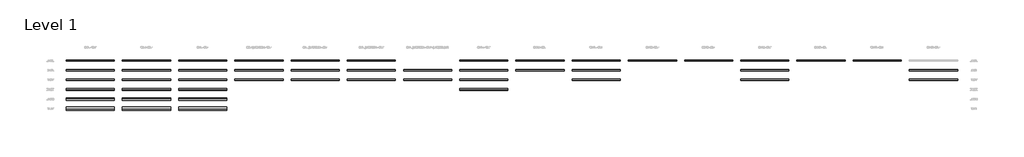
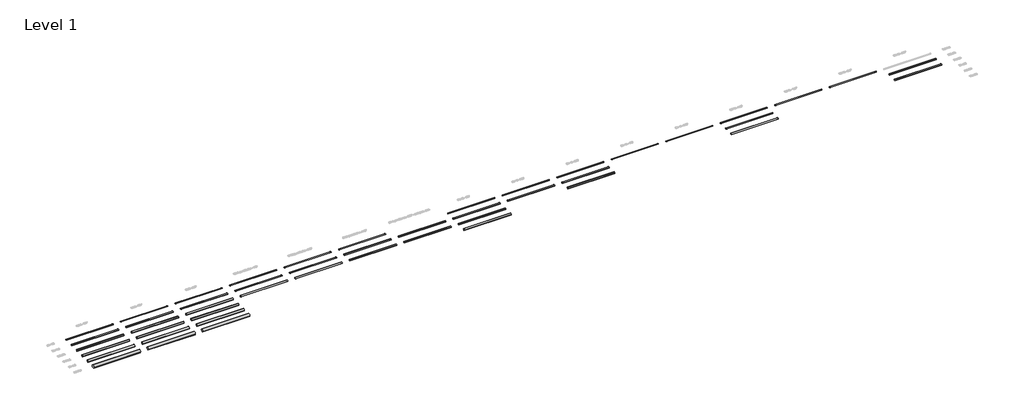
# One storey, part 1 of 9: 47 pipe segments.
"""IFC4 building model written with IfcOpenShell, lengths in millimetres."""

from ifc_helpers import new_model, si_unit, point, frame, frame_2d, origin, place, context, project, spatial, circle_curve, trimmed, segment, composite_curve, outline, extrude, element, save

model = new_model("IFC4")

# Units and contexts
model_context = context("Model", 3, world=origin())
ifc_project = project(units=[si_unit("LENGTHUNIT", "METRE", prefix="MILLI")], contexts=[model_context])

# Site, building, storey
site = spatial("IfcSite", under=ifc_project)
building = spatial("IfcBuilding", under=site)
storey = spatial("IfcBuildingStorey", under=building, Name="Level 1", Elevation=0.0)

# Pipe segments
placement = place(None, origin())
element("IfcPipeSegment", 1, ObjectType="Pipelife Pragma OD® rura perforowana o podwójnej ściance SN 8 - perforacja 120°", at=placement, inside=storey, context=model_context, shape_type="SweptSolid", body=[
    extrude(outline(composite_curve([segment(trimmed(circle_curve(frame_2d((-613.949573, 0.0)), 80.0), [point((-693.949573, 0.0))], [point((-613.949573, 80.0))], False, "CARTESIAN"), True, "CONTINUOUS"), segment(trimmed(circle_curve(frame_2d((-613.949573, 0.0)), 80.0), [point((-613.949573, 80.0))], [point((-533.949573, 0.0))], False, "CARTESIAN"), True, "CONTINUOUS"), segment(trimmed(circle_curve(frame_2d((-613.949573, 0.0)), 80.0), [point((-533.949573, 0.0))], [point((-613.949573, -80.0))], False, "CARTESIAN"), True, "CONTINUOUS"), segment(trimmed(circle_curve(frame_2d((-613.949573, 0.0)), 80.0), [point((-613.949573, -80.0))], [point((-693.949573, 0.0))], False, "CARTESIAN"), True, "CONTINUOUS")], self_intersect=False)), frame((-17032.6671252, 0.0, 0.0), z_axis=(1.0, 0.0, 0.0), x_axis=(0.0, 1.0, 0.0)), (0.0, 0.0, 1.0), 6000.0),
])
element("IfcPipeSegment", 2, ObjectType="Pipelife Pragma OD® rura perforowana o podwójnej ściance SN 8 - perforacja 120°", at=placement, inside=storey, context=model_context, shape_type="SweptSolid", body=[
    extrude(outline(composite_curve([segment(trimmed(circle_curve(frame_2d((-1813.949573, 0.0)), 100.0), [point((-1913.949573, 0.0))], [point((-1813.949573, 100.0))], False, "CARTESIAN"), True, "CONTINUOUS"), segment(trimmed(circle_curve(frame_2d((-1813.949573, 0.0)), 100.0), [point((-1813.949573, 100.0))], [point((-1713.949573, 0.0))], False, "CARTESIAN"), True, "CONTINUOUS"), segment(trimmed(circle_curve(frame_2d((-1813.949573, 0.0)), 100.0), [point((-1713.949573, 0.0))], [point((-1813.949573, -100.0))], False, "CARTESIAN"), True, "CONTINUOUS"), segment(trimmed(circle_curve(frame_2d((-1813.949573, 0.0)), 100.0), [point((-1813.949573, -100.0))], [point((-1913.949573, 0.0))], False, "CARTESIAN"), True, "CONTINUOUS")], self_intersect=False)), frame((-17032.6671252, 0.0, 0.0), z_axis=(1.0, 0.0, 0.0), x_axis=(0.0, 1.0, 0.0)), (0.0, 0.0, 1.0), 6000.0),
])
element("IfcPipeSegment", 3, ObjectType="Pipelife Pragma OD® rura perforowana o podwójnej ściance SN 8 - perforacja 120°", at=placement, inside=storey, context=model_context, shape_type="SweptSolid", body=[
    extrude(outline(composite_curve([segment(trimmed(circle_curve(frame_2d((-3013.949573, 0.0)), 125.0), [point((-3138.949573, 0.0))], [point((-3013.949573, 125.0))], False, "CARTESIAN"), True, "CONTINUOUS"), segment(trimmed(circle_curve(frame_2d((-3013.949573, 0.0)), 125.0), [point((-3013.949573, 125.0))], [point((-2888.949573, 0.0))], False, "CARTESIAN"), True, "CONTINUOUS"), segment(trimmed(circle_curve(frame_2d((-3013.949573, 0.0)), 125.0), [point((-2888.949573, 0.0))], [point((-3013.949573, -125.0))], False, "CARTESIAN"), True, "CONTINUOUS"), segment(trimmed(circle_curve(frame_2d((-3013.949573, 0.0)), 125.0), [point((-3013.949573, -125.0))], [point((-3138.949573, 0.0))], False, "CARTESIAN"), True, "CONTINUOUS")], self_intersect=False)), frame((-17032.6671252, 0.0, 0.0), z_axis=(1.0, 0.0, 0.0), x_axis=(0.0, 1.0, 0.0)), (0.0, 0.0, 1.0), 6000.0),
])
element("IfcPipeSegment", 4, ObjectType="Pipelife Pragma OD® rura perforowana o podwójnej ściance SN 8 - perforacja 120°", at=placement, inside=storey, context=model_context, shape_type="SweptSolid", body=[
    extrude(outline(composite_curve([segment(trimmed(circle_curve(frame_2d((-4213.949573, 0.0)), 157.5), [point((-4371.449573, 0.0))], [point((-4213.949573, 157.5))], False, "CARTESIAN"), True, "CONTINUOUS"), segment(trimmed(circle_curve(frame_2d((-4213.949573, 0.0)), 157.5), [point((-4213.949573, 157.5))], [point((-4056.449573, 0.0))], False, "CARTESIAN"), True, "CONTINUOUS"), segment(trimmed(circle_curve(frame_2d((-4213.949573, 0.0)), 157.5), [point((-4056.449573, 0.0))], [point((-4213.949573, -157.5))], False, "CARTESIAN"), True, "CONTINUOUS"), segment(trimmed(circle_curve(frame_2d((-4213.949573, 0.0)), 157.5), [point((-4213.949573, -157.5))], [point((-4371.449573, 0.0))], False, "CARTESIAN"), True, "CONTINUOUS")], self_intersect=False)), frame((-17032.6671252, 0.0, 0.0), z_axis=(1.0, 0.0, 0.0), x_axis=(0.0, 1.0, 0.0)), (0.0, 0.0, 1.0), 6000.0),
])
element("IfcPipeSegment", 5, ObjectType="Pipelife Pragma OD® rura perforowana o podwójnej ściance SN 8 - perforacja 120°", at=placement, inside=storey, context=model_context, shape_type="SweptSolid", body=[
    extrude(outline(composite_curve([segment(trimmed(circle_curve(frame_2d((-5413.949573, 0.0)), 200.0), [point((-5613.949573, 0.0))], [point((-5413.949573, 200.0))], False, "CARTESIAN"), True, "CONTINUOUS"), segment(trimmed(circle_curve(frame_2d((-5413.949573, 0.0)), 200.0), [point((-5413.949573, 200.0))], [point((-5213.949573, 0.0))], False, "CARTESIAN"), True, "CONTINUOUS"), segment(trimmed(circle_curve(frame_2d((-5413.949573, 0.0)), 200.0), [point((-5213.949573, 0.0))], [point((-5413.949573, -200.0))], False, "CARTESIAN"), True, "CONTINUOUS"), segment(trimmed(circle_curve(frame_2d((-5413.949573, 0.0)), 200.0), [point((-5413.949573, -200.0))], [point((-5613.949573, 0.0))], False, "CARTESIAN"), True, "CONTINUOUS")], self_intersect=False)), frame((-17032.6671252, 0.0, 0.0), z_axis=(1.0, 0.0, 0.0), x_axis=(0.0, 1.0, 0.0)), (0.0, 0.0, 1.0), 6000.0),
])
element("IfcPipeSegment", 6, ObjectType="Pipelife Pragma OD® rura perforowana o podwójnej ściance SN 8 - perforacja 220°", at=placement, inside=storey, context=model_context, shape_type="SweptSolid", body=[
    extrude(outline(composite_curve([segment(trimmed(circle_curve(frame_2d((-613.949573, 0.0)), 80.0), [point((-693.949573, 0.0))], [point((-613.949573, 80.0))], False, "CARTESIAN"), True, "CONTINUOUS"), segment(trimmed(circle_curve(frame_2d((-613.949573, 0.0)), 80.0), [point((-613.949573, 80.0))], [point((-533.949573, 0.0))], False, "CARTESIAN"), True, "CONTINUOUS"), segment(trimmed(circle_curve(frame_2d((-613.949573, 0.0)), 80.0), [point((-533.949573, 0.0))], [point((-613.949573, -80.0))], False, "CARTESIAN"), True, "CONTINUOUS"), segment(trimmed(circle_curve(frame_2d((-613.949573, 0.0)), 80.0), [point((-613.949573, -80.0))], [point((-693.949573, 0.0))], False, "CARTESIAN"), True, "CONTINUOUS")], self_intersect=False)), frame((-10032.6671252, 0.0, 0.0), z_axis=(1.0, 0.0, 0.0), x_axis=(0.0, 1.0, 0.0)), (0.0, 0.0, 1.0), 6000.0),
])
element("IfcPipeSegment", 7, ObjectType="Pipelife Pragma OD® rura perforowana o podwójnej ściance SN 8 - perforacja 220°", at=placement, inside=storey, context=model_context, shape_type="SweptSolid", body=[
    extrude(outline(composite_curve([segment(trimmed(circle_curve(frame_2d((-1813.949573, 0.0)), 100.0), [point((-1913.949573, 0.0))], [point((-1813.949573, 100.0))], False, "CARTESIAN"), True, "CONTINUOUS"), segment(trimmed(circle_curve(frame_2d((-1813.949573, 0.0)), 100.0), [point((-1813.949573, 100.0))], [point((-1713.949573, 0.0))], False, "CARTESIAN"), True, "CONTINUOUS"), segment(trimmed(circle_curve(frame_2d((-1813.949573, 0.0)), 100.0), [point((-1713.949573, 0.0))], [point((-1813.949573, -100.0))], False, "CARTESIAN"), True, "CONTINUOUS"), segment(trimmed(circle_curve(frame_2d((-1813.949573, 0.0)), 100.0), [point((-1813.949573, -100.0))], [point((-1913.949573, 0.0))], False, "CARTESIAN"), True, "CONTINUOUS")], self_intersect=False)), frame((-10032.6671252, 0.0, 0.0), z_axis=(1.0, 0.0, 0.0), x_axis=(0.0, 1.0, 0.0)), (0.0, 0.0, 1.0), 6000.0),
])
element("IfcPipeSegment", 8, ObjectType="Pipelife Pragma OD® rura perforowana o podwójnej ściance SN 8 - perforacja 220°", at=placement, inside=storey, context=model_context, shape_type="SweptSolid", body=[
    extrude(outline(composite_curve([segment(trimmed(circle_curve(frame_2d((-3013.949573, 0.0)), 125.0), [point((-3138.949573, 0.0))], [point((-3013.949573, 125.0))], False, "CARTESIAN"), True, "CONTINUOUS"), segment(trimmed(circle_curve(frame_2d((-3013.949573, 0.0)), 125.0), [point((-3013.949573, 125.0))], [point((-2888.949573, 0.0))], False, "CARTESIAN"), True, "CONTINUOUS"), segment(trimmed(circle_curve(frame_2d((-3013.949573, 0.0)), 125.0), [point((-2888.949573, 0.0))], [point((-3013.949573, -125.0))], False, "CARTESIAN"), True, "CONTINUOUS"), segment(trimmed(circle_curve(frame_2d((-3013.949573, 0.0)), 125.0), [point((-3013.949573, -125.0))], [point((-3138.949573, 0.0))], False, "CARTESIAN"), True, "CONTINUOUS")], self_intersect=False)), frame((-10032.6671252, 0.0, 0.0), z_axis=(1.0, 0.0, 0.0), x_axis=(0.0, 1.0, 0.0)), (0.0, 0.0, 1.0), 6000.0),
])
element("IfcPipeSegment", 9, ObjectType="Pipelife Pragma OD® rura perforowana o podwójnej ściance SN 8 - perforacja 220°", at=placement, inside=storey, context=model_context, shape_type="SweptSolid", body=[
    extrude(outline(composite_curve([segment(trimmed(circle_curve(frame_2d((-4213.949573, 0.0)), 157.5), [point((-4371.449573, 0.0))], [point((-4213.949573, 157.5))], False, "CARTESIAN"), True, "CONTINUOUS"), segment(trimmed(circle_curve(frame_2d((-4213.949573, 0.0)), 157.5), [point((-4213.949573, 157.5))], [point((-4056.449573, 0.0))], False, "CARTESIAN"), True, "CONTINUOUS"), segment(trimmed(circle_curve(frame_2d((-4213.949573, 0.0)), 157.5), [point((-4056.449573, 0.0))], [point((-4213.949573, -157.5))], False, "CARTESIAN"), True, "CONTINUOUS"), segment(trimmed(circle_curve(frame_2d((-4213.949573, 0.0)), 157.5), [point((-4213.949573, -157.5))], [point((-4371.449573, 0.0))], False, "CARTESIAN"), True, "CONTINUOUS")], self_intersect=False)), frame((-10032.6671252, 0.0, 0.0), z_axis=(1.0, 0.0, 0.0), x_axis=(0.0, 1.0, 0.0)), (0.0, 0.0, 1.0), 6000.0),
])
element("IfcPipeSegment", 10, ObjectType="Pipelife Pragma OD® rura perforowana o podwójnej ściance SN 8 - perforacja 220°", at=placement, inside=storey, context=model_context, shape_type="SweptSolid", body=[
    extrude(outline(composite_curve([segment(trimmed(circle_curve(frame_2d((-5413.949573, 0.0)), 200.0), [point((-5613.949573, 0.0))], [point((-5413.949573, 200.0))], False, "CARTESIAN"), True, "CONTINUOUS"), segment(trimmed(circle_curve(frame_2d((-5413.949573, 0.0)), 200.0), [point((-5413.949573, 200.0))], [point((-5213.949573, 0.0))], False, "CARTESIAN"), True, "CONTINUOUS"), segment(trimmed(circle_curve(frame_2d((-5413.949573, 0.0)), 200.0), [point((-5213.949573, 0.0))], [point((-5413.949573, -200.0))], False, "CARTESIAN"), True, "CONTINUOUS"), segment(trimmed(circle_curve(frame_2d((-5413.949573, 0.0)), 200.0), [point((-5413.949573, -200.0))], [point((-5613.949573, 0.0))], False, "CARTESIAN"), True, "CONTINUOUS")], self_intersect=False)), frame((-10032.6671252, 0.0, 0.0), z_axis=(1.0, 0.0, 0.0), x_axis=(0.0, 1.0, 0.0)), (0.0, 0.0, 1.0), 6000.0),
])
element("IfcPipeSegment", 11, ObjectType="Pipelife Pragma OD® rura perforowana o podwójnej ściance SN 8 - perforacja 360°", at=placement, inside=storey, context=model_context, shape_type="SweptSolid", body=[
    extrude(outline(composite_curve([segment(trimmed(circle_curve(frame_2d((-613.949573, 0.0)), 80.0), [point((-693.949573, 0.0))], [point((-613.949573, 80.0))], False, "CARTESIAN"), True, "CONTINUOUS"), segment(trimmed(circle_curve(frame_2d((-613.949573, 0.0)), 80.0), [point((-613.949573, 80.0))], [point((-533.949573, 0.0))], False, "CARTESIAN"), True, "CONTINUOUS"), segment(trimmed(circle_curve(frame_2d((-613.949573, 0.0)), 80.0), [point((-533.949573, 0.0))], [point((-613.949573, -80.0))], False, "CARTESIAN"), True, "CONTINUOUS"), segment(trimmed(circle_curve(frame_2d((-613.949573, 0.0)), 80.0), [point((-613.949573, -80.0))], [point((-693.949573, 0.0))], False, "CARTESIAN"), True, "CONTINUOUS")], self_intersect=False)), frame((-3032.6671252, 0.0, 0.0), z_axis=(1.0, 0.0, 0.0), x_axis=(0.0, 1.0, 0.0)), (0.0, 0.0, 1.0), 6000.0),
])
element("IfcPipeSegment", 12, ObjectType="Pipelife Pragma OD® rura perforowana o podwójnej ściance SN 8 - perforacja 360°", at=placement, inside=storey, context=model_context, shape_type="SweptSolid", body=[
    extrude(outline(composite_curve([segment(trimmed(circle_curve(frame_2d((-1813.949573, 0.0)), 100.0), [point((-1913.949573, 0.0))], [point((-1813.949573, 100.0))], False, "CARTESIAN"), True, "CONTINUOUS"), segment(trimmed(circle_curve(frame_2d((-1813.949573, 0.0)), 100.0), [point((-1813.949573, 100.0))], [point((-1713.949573, 0.0))], False, "CARTESIAN"), True, "CONTINUOUS"), segment(trimmed(circle_curve(frame_2d((-1813.949573, 0.0)), 100.0), [point((-1713.949573, 0.0))], [point((-1813.949573, -100.0))], False, "CARTESIAN"), True, "CONTINUOUS"), segment(trimmed(circle_curve(frame_2d((-1813.949573, 0.0)), 100.0), [point((-1813.949573, -100.0))], [point((-1913.949573, 0.0))], False, "CARTESIAN"), True, "CONTINUOUS")], self_intersect=False)), frame((-3032.6671252, 0.0, 0.0), z_axis=(1.0, 0.0, 0.0), x_axis=(0.0, 1.0, 0.0)), (0.0, 0.0, 1.0), 6000.0),
])
element("IfcPipeSegment", 13, ObjectType="Pipelife Pragma OD® rura perforowana o podwójnej ściance SN 8 - perforacja 360°", at=placement, inside=storey, context=model_context, shape_type="SweptSolid", body=[
    extrude(outline(composite_curve([segment(trimmed(circle_curve(frame_2d((-3013.949573, 0.0)), 125.0), [point((-3138.949573, 0.0))], [point((-3013.949573, 125.0))], False, "CARTESIAN"), True, "CONTINUOUS"), segment(trimmed(circle_curve(frame_2d((-3013.949573, 0.0)), 125.0), [point((-3013.949573, 125.0))], [point((-2888.949573, 0.0))], False, "CARTESIAN"), True, "CONTINUOUS"), segment(trimmed(circle_curve(frame_2d((-3013.949573, 0.0)), 125.0), [point((-2888.949573, 0.0))], [point((-3013.949573, -125.0))], False, "CARTESIAN"), True, "CONTINUOUS"), segment(trimmed(circle_curve(frame_2d((-3013.949573, 0.0)), 125.0), [point((-3013.949573, -125.0))], [point((-3138.949573, 0.0))], False, "CARTESIAN"), True, "CONTINUOUS")], self_intersect=False)), frame((-3032.6671252, 0.0, 0.0), z_axis=(1.0, 0.0, 0.0), x_axis=(0.0, 1.0, 0.0)), (0.0, 0.0, 1.0), 6000.0),
])
element("IfcPipeSegment", 14, ObjectType="Pipelife Pragma OD® rura perforowana o podwójnej ściance SN 8 - perforacja 360°", at=placement, inside=storey, context=model_context, shape_type="SweptSolid", body=[
    extrude(outline(composite_curve([segment(trimmed(circle_curve(frame_2d((-4213.949573, 0.0)), 157.5), [point((-4371.449573, 0.0))], [point((-4213.949573, 157.5))], False, "CARTESIAN"), True, "CONTINUOUS"), segment(trimmed(circle_curve(frame_2d((-4213.949573, 0.0)), 157.5), [point((-4213.949573, 157.5))], [point((-4056.449573, 0.0))], False, "CARTESIAN"), True, "CONTINUOUS"), segment(trimmed(circle_curve(frame_2d((-4213.949573, 0.0)), 157.5), [point((-4056.449573, 0.0))], [point((-4213.949573, -157.5))], False, "CARTESIAN"), True, "CONTINUOUS"), segment(trimmed(circle_curve(frame_2d((-4213.949573, 0.0)), 157.5), [point((-4213.949573, -157.5))], [point((-4371.449573, 0.0))], False, "CARTESIAN"), True, "CONTINUOUS")], self_intersect=False)), frame((-3032.6671252, 0.0, 0.0), z_axis=(1.0, 0.0, 0.0), x_axis=(0.0, 1.0, 0.0)), (0.0, 0.0, 1.0), 6000.0),
])
element("IfcPipeSegment", 15, ObjectType="Pipelife Pragma OD® rura perforowana o podwójnej ściance SN 8 - perforacja 360°", at=placement, inside=storey, context=model_context, shape_type="SweptSolid", body=[
    extrude(outline(composite_curve([segment(trimmed(circle_curve(frame_2d((-5413.949573, 0.0)), 200.0), [point((-5613.949573, 0.0))], [point((-5413.949573, 200.0))], False, "CARTESIAN"), True, "CONTINUOUS"), segment(trimmed(circle_curve(frame_2d((-5413.949573, 0.0)), 200.0), [point((-5413.949573, 200.0))], [point((-5213.949573, 0.0))], False, "CARTESIAN"), True, "CONTINUOUS"), segment(trimmed(circle_curve(frame_2d((-5413.949573, 0.0)), 200.0), [point((-5213.949573, 0.0))], [point((-5413.949573, -200.0))], False, "CARTESIAN"), True, "CONTINUOUS"), segment(trimmed(circle_curve(frame_2d((-5413.949573, 0.0)), 200.0), [point((-5413.949573, -200.0))], [point((-5613.949573, 0.0))], False, "CARTESIAN"), True, "CONTINUOUS")], self_intersect=False)), frame((-3032.6671252, 0.0, 0.0), z_axis=(1.0, 0.0, 0.0), x_axis=(0.0, 1.0, 0.0)), (0.0, 0.0, 1.0), 6000.0),
])
element("IfcPipeSegment", 16, ObjectType="Pipelife Pragma OD® rura perforowana o podwójnej ściance (czarna) SN 8 - perforacja 120°", at=placement, inside=storey, context=model_context, shape_type="SweptSolid", body=[
    extrude(outline(composite_curve([segment(trimmed(circle_curve(frame_2d((586.050427, 0.0)), 55.0), [point((531.050427, 0.0))], [point((586.050427, 55.0))], False, "CARTESIAN"), True, "CONTINUOUS"), segment(trimmed(circle_curve(frame_2d((586.050427, 0.0)), 55.0), [point((586.050427, 55.0))], [point((641.050427, 0.0))], False, "CARTESIAN"), True, "CONTINUOUS"), segment(trimmed(circle_curve(frame_2d((586.050427, 0.0)), 55.0), [point((641.050427, 0.0))], [point((586.050427, -55.0))], False, "CARTESIAN"), True, "CONTINUOUS"), segment(trimmed(circle_curve(frame_2d((586.050427, 0.0)), 55.0), [point((586.050427, -55.0))], [point((531.050427, 0.0))], False, "CARTESIAN"), True, "CONTINUOUS")], self_intersect=False)), frame((-17032.6671252, 0.0, 0.0), z_axis=(1.0, 0.0, 0.0), x_axis=(0.0, 1.0, 0.0)), (0.0, 0.0, 1.0), 6000.0),
])
element("IfcPipeSegment", 17, ObjectType="Pipelife Pragma OD® rura perforowana o podwójnej ściance (czarna) SN 8 - perforacja 220°", at=placement, inside=storey, context=model_context, shape_type="SweptSolid", body=[
    extrude(outline(composite_curve([segment(trimmed(circle_curve(frame_2d((586.050427, 0.0)), 55.0), [point((531.050427, 0.0))], [point((586.050427, 55.0))], False, "CARTESIAN"), True, "CONTINUOUS"), segment(trimmed(circle_curve(frame_2d((586.050427, 0.0)), 55.0), [point((586.050427, 55.0))], [point((641.050427, 0.0))], False, "CARTESIAN"), True, "CONTINUOUS"), segment(trimmed(circle_curve(frame_2d((586.050427, 0.0)), 55.0), [point((641.050427, 0.0))], [point((586.050427, -55.0))], False, "CARTESIAN"), True, "CONTINUOUS"), segment(trimmed(circle_curve(frame_2d((586.050427, 0.0)), 55.0), [point((586.050427, -55.0))], [point((531.050427, 0.0))], False, "CARTESIAN"), True, "CONTINUOUS")], self_intersect=False)), frame((-10032.6671252, 0.0, 0.0), z_axis=(1.0, 0.0, 0.0), x_axis=(0.0, 1.0, 0.0)), (0.0, 0.0, 1.0), 6000.0),
])
element("IfcPipeSegment", 18, ObjectType="Pipelife Pragma OD® rura perforowana o podwójnej ściance (czarna) SN 8 - perforacja 360°", at=placement, inside=storey, context=model_context, shape_type="SweptSolid", body=[
    extrude(outline(composite_curve([segment(trimmed(circle_curve(frame_2d((586.050427, 0.0)), 55.0), [point((531.050427, 0.0))], [point((586.050427, 55.0))], False, "CARTESIAN"), True, "CONTINUOUS"), segment(trimmed(circle_curve(frame_2d((586.050427, 0.0)), 55.0), [point((586.050427, 55.0))], [point((641.050427, 0.0))], False, "CARTESIAN"), True, "CONTINUOUS"), segment(trimmed(circle_curve(frame_2d((586.050427, 0.0)), 55.0), [point((641.050427, 0.0))], [point((586.050427, -55.0))], False, "CARTESIAN"), True, "CONTINUOUS"), segment(trimmed(circle_curve(frame_2d((586.050427, 0.0)), 55.0), [point((586.050427, -55.0))], [point((531.050427, 0.0))], False, "CARTESIAN"), True, "CONTINUOUS")], self_intersect=False)), frame((-3032.6671252, 0.0, 0.0), z_axis=(1.0, 0.0, 0.0), x_axis=(0.0, 1.0, 0.0)), (0.0, 0.0, 1.0), 6000.0),
])
element("IfcPipeSegment", 19, ObjectType="Pipelife Pragma OD® rura perforowana o podwójnej ściance (czarna) SN 8 w geowłókninie - perforacja 120°", at=placement, inside=storey, context=model_context, shape_type="SweptSolid", body=[
    extrude(outline(composite_curve([segment(trimmed(circle_curve(frame_2d((586.050427, 0.0)), 55.0), [point((531.050427, 0.0))], [point((586.050427, 55.0))], False, "CARTESIAN"), True, "CONTINUOUS"), segment(trimmed(circle_curve(frame_2d((586.050427, 0.0)), 55.0), [point((586.050427, 55.0))], [point((641.050427, 0.0))], False, "CARTESIAN"), True, "CONTINUOUS"), segment(trimmed(circle_curve(frame_2d((586.050427, 0.0)), 55.0), [point((641.050427, 0.0))], [point((586.050427, -55.0))], False, "CARTESIAN"), True, "CONTINUOUS"), segment(trimmed(circle_curve(frame_2d((586.050427, 0.0)), 55.0), [point((586.050427, -55.0))], [point((531.050427, 0.0))], False, "CARTESIAN"), True, "CONTINUOUS")], self_intersect=False)), frame((3967.3328748, 0.0, 0.0), z_axis=(1.0, 0.0, 0.0), x_axis=(0.0, 1.0, 0.0)), (0.0, 0.0, 1.0), 6000.0),
])
element("IfcPipeSegment", 20, ObjectType="Pipelife Pragma OD® rura perforowana o podwójnej ściance (czarna) SN 8 w geowłókninie - perforacja 220°", at=placement, inside=storey, context=model_context, shape_type="SweptSolid", body=[
    extrude(outline(composite_curve([segment(trimmed(circle_curve(frame_2d((586.050427, 0.0)), 55.0), [point((531.050427, 0.0))], [point((586.050427, 55.0))], False, "CARTESIAN"), True, "CONTINUOUS"), segment(trimmed(circle_curve(frame_2d((586.050427, 0.0)), 55.0), [point((586.050427, 55.0))], [point((641.050427, 0.0))], False, "CARTESIAN"), True, "CONTINUOUS"), segment(trimmed(circle_curve(frame_2d((586.050427, 0.0)), 55.0), [point((641.050427, 0.0))], [point((586.050427, -55.0))], False, "CARTESIAN"), True, "CONTINUOUS"), segment(trimmed(circle_curve(frame_2d((586.050427, 0.0)), 55.0), [point((586.050427, -55.0))], [point((531.050427, 0.0))], False, "CARTESIAN"), True, "CONTINUOUS")], self_intersect=False)), frame((10967.3328748, 0.0, 0.0), z_axis=(1.0, 0.0, 0.0), x_axis=(0.0, 1.0, 0.0)), (0.0, 0.0, 1.0), 6000.0),
])
element("IfcPipeSegment", 21, ObjectType="Pipelife Pragma OD® rura perforowana o podwójnej ściance (czarna) SN 8 w geowłókninie - perforacja 360°", at=placement, inside=storey, context=model_context, shape_type="SweptSolid", body=[
    extrude(outline(composite_curve([segment(trimmed(circle_curve(frame_2d((586.050427, 0.0)), 55.0), [point((531.050427, 0.0))], [point((586.050427, 55.0))], False, "CARTESIAN"), True, "CONTINUOUS"), segment(trimmed(circle_curve(frame_2d((586.050427, 0.0)), 55.0), [point((586.050427, 55.0))], [point((641.050427, 0.0))], False, "CARTESIAN"), True, "CONTINUOUS"), segment(trimmed(circle_curve(frame_2d((586.050427, 0.0)), 55.0), [point((641.050427, 0.0))], [point((586.050427, -55.0))], False, "CARTESIAN"), True, "CONTINUOUS"), segment(trimmed(circle_curve(frame_2d((586.050427, 0.0)), 55.0), [point((586.050427, -55.0))], [point((531.050427, 0.0))], False, "CARTESIAN"), True, "CONTINUOUS")], self_intersect=False)), frame((17967.3328748, 0.0, 0.0), z_axis=(1.0, 0.0, 0.0), x_axis=(0.0, 1.0, 0.0)), (0.0, 0.0, 1.0), 6000.0),
])
element("IfcPipeSegment", 22, ObjectType="Pipelife Pragma OD® rura perforowana o podwójnej ściance SN 8 w geowłókninie - perforacja 120°", at=placement, inside=storey, context=model_context, shape_type="SweptSolid", body=[
    extrude(outline(composite_curve([segment(trimmed(circle_curve(frame_2d((-613.949573, 0.0)), 80.0), [point((-693.949573, 0.0))], [point((-613.949573, 80.0))], False, "CARTESIAN"), True, "CONTINUOUS"), segment(trimmed(circle_curve(frame_2d((-613.949573, 0.0)), 80.0), [point((-613.949573, 80.0))], [point((-533.949573, 0.0))], False, "CARTESIAN"), True, "CONTINUOUS"), segment(trimmed(circle_curve(frame_2d((-613.949573, 0.0)), 80.0), [point((-533.949573, 0.0))], [point((-613.949573, -80.0))], False, "CARTESIAN"), True, "CONTINUOUS"), segment(trimmed(circle_curve(frame_2d((-613.949573, 0.0)), 80.0), [point((-613.949573, -80.0))], [point((-693.949573, 0.0))], False, "CARTESIAN"), True, "CONTINUOUS")], self_intersect=False)), frame((3967.3328748, 0.0, 0.0), z_axis=(1.0, 0.0, 0.0), x_axis=(0.0, 1.0, 0.0)), (0.0, 0.0, 1.0), 6000.0),
])
element("IfcPipeSegment", 23, ObjectType="Pipelife Pragma OD® rura perforowana o podwójnej ściance SN 8 w geowłókninie - perforacja 120°", at=placement, inside=storey, context=model_context, shape_type="SweptSolid", body=[
    extrude(outline(composite_curve([segment(trimmed(circle_curve(frame_2d((-1813.949573, 0.0)), 100.0), [point((-1913.949573, 0.0))], [point((-1813.949573, 100.0))], False, "CARTESIAN"), True, "CONTINUOUS"), segment(trimmed(circle_curve(frame_2d((-1813.949573, 0.0)), 100.0), [point((-1813.949573, 100.0))], [point((-1713.949573, 0.0))], False, "CARTESIAN"), True, "CONTINUOUS"), segment(trimmed(circle_curve(frame_2d((-1813.949573, 0.0)), 100.0), [point((-1713.949573, 0.0))], [point((-1813.949573, -100.0))], False, "CARTESIAN"), True, "CONTINUOUS"), segment(trimmed(circle_curve(frame_2d((-1813.949573, 0.0)), 100.0), [point((-1813.949573, -100.0))], [point((-1913.949573, 0.0))], False, "CARTESIAN"), True, "CONTINUOUS")], self_intersect=False)), frame((3967.3328748, 0.0, 0.0), z_axis=(1.0, 0.0, 0.0), x_axis=(0.0, 1.0, 0.0)), (0.0, 0.0, 1.0), 6000.0),
])
element("IfcPipeSegment", 24, ObjectType="Pipelife Pragma OD® rura perforowana o podwójnej ściance SN 8 w geowłókninie - perforacja 220°", at=placement, inside=storey, context=model_context, shape_type="SweptSolid", body=[
    extrude(outline(composite_curve([segment(trimmed(circle_curve(frame_2d((-613.949573, 0.0)), 80.0), [point((-693.949573, 0.0))], [point((-613.949573, 80.0))], False, "CARTESIAN"), True, "CONTINUOUS"), segment(trimmed(circle_curve(frame_2d((-613.949573, 0.0)), 80.0), [point((-613.949573, 80.0))], [point((-533.949573, 0.0))], False, "CARTESIAN"), True, "CONTINUOUS"), segment(trimmed(circle_curve(frame_2d((-613.949573, 0.0)), 80.0), [point((-533.949573, 0.0))], [point((-613.949573, -80.0))], False, "CARTESIAN"), True, "CONTINUOUS"), segment(trimmed(circle_curve(frame_2d((-613.949573, 0.0)), 80.0), [point((-613.949573, -80.0))], [point((-693.949573, 0.0))], False, "CARTESIAN"), True, "CONTINUOUS")], self_intersect=False)), frame((10967.3328748, 0.0, 0.0), z_axis=(1.0, 0.0, 0.0), x_axis=(0.0, 1.0, 0.0)), (0.0, 0.0, 1.0), 6000.0),
])
element("IfcPipeSegment", 25, ObjectType="Pipelife Pragma OD® rura perforowana o podwójnej ściance SN 8 w geowłókninie - perforacja 220°", at=placement, inside=storey, context=model_context, shape_type="SweptSolid", body=[
    extrude(outline(composite_curve([segment(trimmed(circle_curve(frame_2d((-1813.949573, 0.0)), 100.0), [point((-1913.949573, 0.0))], [point((-1813.949573, 100.0))], False, "CARTESIAN"), True, "CONTINUOUS"), segment(trimmed(circle_curve(frame_2d((-1813.949573, 0.0)), 100.0), [point((-1813.949573, 100.0))], [point((-1713.949573, 0.0))], False, "CARTESIAN"), True, "CONTINUOUS"), segment(trimmed(circle_curve(frame_2d((-1813.949573, 0.0)), 100.0), [point((-1713.949573, 0.0))], [point((-1813.949573, -100.0))], False, "CARTESIAN"), True, "CONTINUOUS"), segment(trimmed(circle_curve(frame_2d((-1813.949573, 0.0)), 100.0), [point((-1813.949573, -100.0))], [point((-1913.949573, 0.0))], False, "CARTESIAN"), True, "CONTINUOUS")], self_intersect=False)), frame((10967.3328748, 0.0, 0.0), z_axis=(1.0, 0.0, 0.0), x_axis=(0.0, 1.0, 0.0)), (0.0, 0.0, 1.0), 6000.0),
])
element("IfcPipeSegment", 26, ObjectType="Pipelife Pragma OD® rura perforowana o podwójnej ściance SN 8 w geowłókninie - perforacja 360°", at=placement, inside=storey, context=model_context, shape_type="SweptSolid", body=[
    extrude(outline(composite_curve([segment(trimmed(circle_curve(frame_2d((-613.949573, 0.0)), 80.0), [point((-693.949573, 0.0))], [point((-613.949573, 80.0))], False, "CARTESIAN"), True, "CONTINUOUS"), segment(trimmed(circle_curve(frame_2d((-613.949573, 0.0)), 80.0), [point((-613.949573, 80.0))], [point((-533.949573, 0.0))], False, "CARTESIAN"), True, "CONTINUOUS"), segment(trimmed(circle_curve(frame_2d((-613.949573, 0.0)), 80.0), [point((-533.949573, 0.0))], [point((-613.949573, -80.0))], False, "CARTESIAN"), True, "CONTINUOUS"), segment(trimmed(circle_curve(frame_2d((-613.949573, 0.0)), 80.0), [point((-613.949573, -80.0))], [point((-693.949573, 0.0))], False, "CARTESIAN"), True, "CONTINUOUS")], self_intersect=False)), frame((17967.3328748, 0.0, 0.0), z_axis=(1.0, 0.0, 0.0), x_axis=(0.0, 1.0, 0.0)), (0.0, 0.0, 1.0), 6000.0),
])
element("IfcPipeSegment", 27, ObjectType="Pipelife Pragma OD® rura perforowana o podwójnej ściance SN 8 w geowłókninie - perforacja 360°", at=placement, inside=storey, context=model_context, shape_type="SweptSolid", body=[
    extrude(outline(composite_curve([segment(trimmed(circle_curve(frame_2d((-1813.949573, 0.0)), 100.0), [point((-1913.949573, 0.0))], [point((-1813.949573, 100.0))], False, "CARTESIAN"), True, "CONTINUOUS"), segment(trimmed(circle_curve(frame_2d((-1813.949573, 0.0)), 100.0), [point((-1813.949573, 100.0))], [point((-1713.949573, 0.0))], False, "CARTESIAN"), True, "CONTINUOUS"), segment(trimmed(circle_curve(frame_2d((-1813.949573, 0.0)), 100.0), [point((-1713.949573, 0.0))], [point((-1813.949573, -100.0))], False, "CARTESIAN"), True, "CONTINUOUS"), segment(trimmed(circle_curve(frame_2d((-1813.949573, 0.0)), 100.0), [point((-1813.949573, -100.0))], [point((-1913.949573, 0.0))], False, "CARTESIAN"), True, "CONTINUOUS")], self_intersect=False)), frame((17967.3328748, 0.0, 0.0), z_axis=(1.0, 0.0, 0.0), x_axis=(0.0, 1.0, 0.0)), (0.0, 0.0, 1.0), 6000.0),
])
element("IfcPipeSegment", 28, ObjectType="Pipelife Pragma OD® rura o podwyższonej perforacji o podwójnej ściance SN 8 w geowłókninie - perforacja 360°", at=placement, inside=storey, context=model_context, shape_type="SweptSolid", body=[
    extrude(outline(composite_curve([segment(trimmed(circle_curve(frame_2d((-613.949573, 0.0)), 80.0), [point((-693.949573, 0.0))], [point((-613.949573, 80.0))], False, "CARTESIAN"), True, "CONTINUOUS"), segment(trimmed(circle_curve(frame_2d((-613.949573, 0.0)), 80.0), [point((-613.949573, 80.0))], [point((-533.949573, 0.0))], False, "CARTESIAN"), True, "CONTINUOUS"), segment(trimmed(circle_curve(frame_2d((-613.949573, 0.0)), 80.0), [point((-533.949573, 0.0))], [point((-613.949573, -80.0))], False, "CARTESIAN"), True, "CONTINUOUS"), segment(trimmed(circle_curve(frame_2d((-613.949573, 0.0)), 80.0), [point((-613.949573, -80.0))], [point((-693.949573, 0.0))], False, "CARTESIAN"), True, "CONTINUOUS")], self_intersect=False)), frame((24967.3328748, 0.0, 0.0), z_axis=(1.0, 0.0, 0.0), x_axis=(0.0, 1.0, 0.0)), (0.0, 0.0, 1.0), 6000.0),
])
element("IfcPipeSegment", 29, ObjectType="Pipelife Pragma OD® rura o podwyższonej perforacji o podwójnej ściance SN 8 w geowłókninie - perforacja 360°", at=placement, inside=storey, context=model_context, shape_type="SweptSolid", body=[
    extrude(outline(composite_curve([segment(trimmed(circle_curve(frame_2d((-1813.949573, 0.0)), 100.0), [point((-1913.949573, 0.0))], [point((-1813.949573, 100.0))], False, "CARTESIAN"), True, "CONTINUOUS"), segment(trimmed(circle_curve(frame_2d((-1813.949573, 0.0)), 100.0), [point((-1813.949573, 100.0))], [point((-1713.949573, 0.0))], False, "CARTESIAN"), True, "CONTINUOUS"), segment(trimmed(circle_curve(frame_2d((-1813.949573, 0.0)), 100.0), [point((-1713.949573, 0.0))], [point((-1813.949573, -100.0))], False, "CARTESIAN"), True, "CONTINUOUS"), segment(trimmed(circle_curve(frame_2d((-1813.949573, 0.0)), 100.0), [point((-1813.949573, -100.0))], [point((-1913.949573, 0.0))], False, "CARTESIAN"), True, "CONTINUOUS")], self_intersect=False)), frame((24967.3328748, 0.0, 0.0), z_axis=(1.0, 0.0, 0.0), x_axis=(0.0, 1.0, 0.0)), (0.0, 0.0, 1.0), 6000.0),
])
element("IfcPipeSegment", 30, ObjectType="Pipelife Pragma OD® rura perforowana o podwójnej ściance SN 10 - perforacja 120°", at=placement, inside=storey, context=model_context, shape_type="SweptSolid", body=[
    extrude(outline(composite_curve([segment(trimmed(circle_curve(frame_2d((-613.949573, 0.0)), 80.0), [point((-693.949573, 0.0))], [point((-613.949573, 80.0))], False, "CARTESIAN"), True, "CONTINUOUS"), segment(trimmed(circle_curve(frame_2d((-613.949573, 0.0)), 80.0), [point((-613.949573, 80.0))], [point((-533.949573, 0.0))], False, "CARTESIAN"), True, "CONTINUOUS"), segment(trimmed(circle_curve(frame_2d((-613.949573, 0.0)), 80.0), [point((-533.949573, 0.0))], [point((-613.949573, -80.0))], False, "CARTESIAN"), True, "CONTINUOUS"), segment(trimmed(circle_curve(frame_2d((-613.949573, 0.0)), 80.0), [point((-613.949573, -80.0))], [point((-693.949573, 0.0))], False, "CARTESIAN"), True, "CONTINUOUS")], self_intersect=False)), frame((31967.3328748, 0.0, 0.0), z_axis=(1.0, 0.0, 0.0), x_axis=(0.0, 1.0, 0.0)), (0.0, 0.0, 1.0), 6000.0),
])
element("IfcPipeSegment", 31, ObjectType="Pipelife Pragma OD® rura perforowana o podwójnej ściance SN 10 - perforacja 120°", at=placement, inside=storey, context=model_context, shape_type="SweptSolid", body=[
    extrude(outline(composite_curve([segment(trimmed(circle_curve(frame_2d((-1813.949573, 0.0)), 100.0), [point((-1913.949573, 0.0))], [point((-1813.949573, 100.0))], False, "CARTESIAN"), True, "CONTINUOUS"), segment(trimmed(circle_curve(frame_2d((-1813.949573, 0.0)), 100.0), [point((-1813.949573, 100.0))], [point((-1713.949573, 0.0))], False, "CARTESIAN"), True, "CONTINUOUS"), segment(trimmed(circle_curve(frame_2d((-1813.949573, 0.0)), 100.0), [point((-1713.949573, 0.0))], [point((-1813.949573, -100.0))], False, "CARTESIAN"), True, "CONTINUOUS"), segment(trimmed(circle_curve(frame_2d((-1813.949573, 0.0)), 100.0), [point((-1813.949573, -100.0))], [point((-1913.949573, 0.0))], False, "CARTESIAN"), True, "CONTINUOUS")], self_intersect=False)), frame((31967.3328748, 0.0, 0.0), z_axis=(1.0, 0.0, 0.0), x_axis=(0.0, 1.0, 0.0)), (0.0, 0.0, 1.0), 6000.0),
])
element("IfcPipeSegment", 32, ObjectType="Pipelife Pragma OD® rura perforowana o podwójnej ściance SN 10 - perforacja 120°", at=placement, inside=storey, context=model_context, shape_type="SweptSolid", body=[
    extrude(outline(composite_curve([segment(trimmed(circle_curve(frame_2d((-3013.949573, 0.0)), 125.0), [point((-3138.949573, 0.0))], [point((-3013.949573, 125.0))], False, "CARTESIAN"), True, "CONTINUOUS"), segment(trimmed(circle_curve(frame_2d((-3013.949573, 0.0)), 125.0), [point((-3013.949573, 125.0))], [point((-2888.949573, 0.0))], False, "CARTESIAN"), True, "CONTINUOUS"), segment(trimmed(circle_curve(frame_2d((-3013.949573, 0.0)), 125.0), [point((-2888.949573, 0.0))], [point((-3013.949573, -125.0))], False, "CARTESIAN"), True, "CONTINUOUS"), segment(trimmed(circle_curve(frame_2d((-3013.949573, 0.0)), 125.0), [point((-3013.949573, -125.0))], [point((-3138.949573, 0.0))], False, "CARTESIAN"), True, "CONTINUOUS")], self_intersect=False)), frame((31967.3328748, 0.0, 0.0), z_axis=(1.0, 0.0, 0.0), x_axis=(0.0, 1.0, 0.0)), (0.0, 0.0, 1.0), 6000.0),
])
element("IfcPipeSegment", 33, ObjectType="Pipelife Pragma OD® rura perforowana o podwójnej ściance SN 10 - perforacja 220°", at=placement, inside=storey, context=model_context, shape_type="SweptSolid", body=[
    extrude(outline(composite_curve([segment(trimmed(circle_curve(frame_2d((-613.949573, 0.0)), 80.0), [point((-693.949573, 0.0))], [point((-613.949573, 80.0))], False, "CARTESIAN"), True, "CONTINUOUS"), segment(trimmed(circle_curve(frame_2d((-613.949573, 0.0)), 80.0), [point((-613.949573, 80.0))], [point((-533.949573, 0.0))], False, "CARTESIAN"), True, "CONTINUOUS"), segment(trimmed(circle_curve(frame_2d((-613.949573, 0.0)), 80.0), [point((-533.949573, 0.0))], [point((-613.949573, -80.0))], False, "CARTESIAN"), True, "CONTINUOUS"), segment(trimmed(circle_curve(frame_2d((-613.949573, 0.0)), 80.0), [point((-613.949573, -80.0))], [point((-693.949573, 0.0))], False, "CARTESIAN"), True, "CONTINUOUS")], self_intersect=False)), frame((38967.3328748, 0.0, 0.0), z_axis=(1.0, 0.0, 0.0), x_axis=(0.0, 1.0, 0.0)), (0.0, 0.0, 1.0), 6000.0),
])
element("IfcPipeSegment", 34, ObjectType="Pipelife Pragma OD® rura perforowana o podwójnej ściance (czarna) SN 10 - perforacja 120°", at=placement, inside=storey, context=model_context, shape_type="SweptSolid", body=[
    extrude(outline(composite_curve([segment(trimmed(circle_curve(frame_2d((586.050427, 0.0)), 55.0), [point((531.050427, 0.0))], [point((586.050427, 55.0))], False, "CARTESIAN"), True, "CONTINUOUS"), segment(trimmed(circle_curve(frame_2d((586.050427, 0.0)), 55.0), [point((586.050427, 55.0))], [point((641.050427, 0.0))], False, "CARTESIAN"), True, "CONTINUOUS"), segment(trimmed(circle_curve(frame_2d((586.050427, 0.0)), 55.0), [point((641.050427, 0.0))], [point((586.050427, -55.0))], False, "CARTESIAN"), True, "CONTINUOUS"), segment(trimmed(circle_curve(frame_2d((586.050427, 0.0)), 55.0), [point((586.050427, -55.0))], [point((531.050427, 0.0))], False, "CARTESIAN"), True, "CONTINUOUS")], self_intersect=False)), frame((31967.3328748, 0.0, 0.0), z_axis=(1.0, 0.0, 0.0), x_axis=(0.0, 1.0, 0.0)), (0.0, 0.0, 1.0), 6000.0),
])
element("IfcPipeSegment", 35, ObjectType="Pipelife Pragma OD® rura perforowana o podwójnej ściance (czarna) SN 10 - perforacja 220°", at=placement, inside=storey, context=model_context, shape_type="SweptSolid", body=[
    extrude(outline(composite_curve([segment(trimmed(circle_curve(frame_2d((586.050427, 0.0)), 55.0), [point((531.050427, 0.0))], [point((586.050427, 55.0))], False, "CARTESIAN"), True, "CONTINUOUS"), segment(trimmed(circle_curve(frame_2d((586.050427, 0.0)), 55.0), [point((586.050427, 55.0))], [point((641.050427, 0.0))], False, "CARTESIAN"), True, "CONTINUOUS"), segment(trimmed(circle_curve(frame_2d((586.050427, 0.0)), 55.0), [point((641.050427, 0.0))], [point((586.050427, -55.0))], False, "CARTESIAN"), True, "CONTINUOUS"), segment(trimmed(circle_curve(frame_2d((586.050427, 0.0)), 55.0), [point((586.050427, -55.0))], [point((531.050427, 0.0))], False, "CARTESIAN"), True, "CONTINUOUS")], self_intersect=False)), frame((38967.3328748, 0.0, 0.0), z_axis=(1.0, 0.0, 0.0), x_axis=(0.0, 1.0, 0.0)), (0.0, 0.0, 1.0), 6000.0),
])
element("IfcPipeSegment", 36, ObjectType="Pipelife Pragma OD® rura perforowana o podwójnej ściance (czarna) SN 10 - perforacja 360°", at=placement, inside=storey, context=model_context, shape_type="SweptSolid", body=[
    extrude(outline(composite_curve([segment(trimmed(circle_curve(frame_2d((586.050427, 0.0)), 55.0), [point((531.050427, 0.0))], [point((586.050427, 55.0))], False, "CARTESIAN"), True, "CONTINUOUS"), segment(trimmed(circle_curve(frame_2d((586.050427, 0.0)), 55.0), [point((586.050427, 55.0))], [point((641.050427, 0.0))], False, "CARTESIAN"), True, "CONTINUOUS"), segment(trimmed(circle_curve(frame_2d((586.050427, 0.0)), 55.0), [point((641.050427, 0.0))], [point((586.050427, -55.0))], False, "CARTESIAN"), True, "CONTINUOUS"), segment(trimmed(circle_curve(frame_2d((586.050427, 0.0)), 55.0), [point((586.050427, -55.0))], [point((531.050427, 0.0))], False, "CARTESIAN"), True, "CONTINUOUS")], self_intersect=False)), frame((45967.3328748, 0.0, 0.0), z_axis=(1.0, 0.0, 0.0), x_axis=(0.0, 1.0, 0.0)), (0.0, 0.0, 1.0), 6000.0),
])
element("IfcPipeSegment", 37, ObjectType="Pipelife Pragma OD® rura perforowana o podwójnej ściance (czarna) SN 12 - perforacja 120°", at=placement, inside=storey, context=model_context, shape_type="SweptSolid", body=[
    extrude(outline(composite_curve([segment(trimmed(circle_curve(frame_2d((586.050427, 0.0)), 55.0), [point((531.050427, 0.0))], [point((586.050427, 55.0))], False, "CARTESIAN"), True, "CONTINUOUS"), segment(trimmed(circle_curve(frame_2d((586.050427, 0.0)), 55.0), [point((586.050427, 55.0))], [point((641.050427, 0.0))], False, "CARTESIAN"), True, "CONTINUOUS"), segment(trimmed(circle_curve(frame_2d((586.050427, 0.0)), 55.0), [point((641.050427, 0.0))], [point((586.050427, -55.0))], False, "CARTESIAN"), True, "CONTINUOUS"), segment(trimmed(circle_curve(frame_2d((586.050427, 0.0)), 55.0), [point((586.050427, -55.0))], [point((531.050427, 0.0))], False, "CARTESIAN"), True, "CONTINUOUS")], self_intersect=False)), frame((52967.3328748, 0.0, 0.0), z_axis=(1.0, 0.0, 0.0), x_axis=(0.0, 1.0, 0.0)), (0.0, 0.0, 1.0), 6000.0),
])
element("IfcPipeSegment", 38, ObjectType="Pipelife Pragma OD® rura perforowana o podwójnej ściance (czarna) SN 12 - perforacja 220°", at=placement, inside=storey, context=model_context, shape_type="SweptSolid", body=[
    extrude(outline(composite_curve([segment(trimmed(circle_curve(frame_2d((586.050427, 0.0)), 55.0), [point((531.050427, 0.0))], [point((586.050427, 55.0))], False, "CARTESIAN"), True, "CONTINUOUS"), segment(trimmed(circle_curve(frame_2d((586.050427, 0.0)), 55.0), [point((586.050427, 55.0))], [point((641.050427, 0.0))], False, "CARTESIAN"), True, "CONTINUOUS"), segment(trimmed(circle_curve(frame_2d((586.050427, 0.0)), 55.0), [point((641.050427, 0.0))], [point((586.050427, -55.0))], False, "CARTESIAN"), True, "CONTINUOUS"), segment(trimmed(circle_curve(frame_2d((586.050427, 0.0)), 55.0), [point((586.050427, -55.0))], [point((531.050427, 0.0))], False, "CARTESIAN"), True, "CONTINUOUS")], self_intersect=False)), frame((59967.3328748, 0.0, 0.0), z_axis=(1.0, 0.0, 0.0), x_axis=(0.0, 1.0, 0.0)), (0.0, 0.0, 1.0), 6000.0),
])
element("IfcPipeSegment", 39, ObjectType="Pipelife Pragma OD® rura perforowana o podwójnej ściance (czarna) SN 12 - perforacja 360°", at=placement, inside=storey, context=model_context, shape_type="SweptSolid", body=[
    extrude(outline(composite_curve([segment(trimmed(circle_curve(frame_2d((586.050427, 0.0)), 55.0), [point((531.050427, 0.0))], [point((586.050427, 55.0))], False, "CARTESIAN"), True, "CONTINUOUS"), segment(trimmed(circle_curve(frame_2d((586.050427, 0.0)), 55.0), [point((586.050427, 55.0))], [point((641.050427, 0.0))], False, "CARTESIAN"), True, "CONTINUOUS"), segment(trimmed(circle_curve(frame_2d((586.050427, 0.0)), 55.0), [point((641.050427, 0.0))], [point((586.050427, -55.0))], False, "CARTESIAN"), True, "CONTINUOUS"), segment(trimmed(circle_curve(frame_2d((586.050427, 0.0)), 55.0), [point((586.050427, -55.0))], [point((531.050427, 0.0))], False, "CARTESIAN"), True, "CONTINUOUS")], self_intersect=False)), frame((66967.3328748, 0.0, 0.0), z_axis=(1.0, 0.0, 0.0), x_axis=(0.0, 1.0, 0.0)), (0.0, 0.0, 1.0), 6000.0),
])
element("IfcPipeSegment", 40, ObjectType="Pipelife Pragma OD® rura perforowana o podwójnej ściance (czarna) SN 16 - perforacja 120°", at=placement, inside=storey, context=model_context, shape_type="SweptSolid", body=[
    extrude(outline(composite_curve([segment(trimmed(circle_curve(frame_2d((586.050427, 0.0)), 55.0), [point((531.050427, 0.0))], [point((586.050427, 55.0))], False, "CARTESIAN"), True, "CONTINUOUS"), segment(trimmed(circle_curve(frame_2d((586.050427, 0.0)), 55.0), [point((586.050427, 55.0))], [point((641.050427, 0.0))], False, "CARTESIAN"), True, "CONTINUOUS"), segment(trimmed(circle_curve(frame_2d((586.050427, 0.0)), 55.0), [point((641.050427, 0.0))], [point((586.050427, -55.0))], False, "CARTESIAN"), True, "CONTINUOUS"), segment(trimmed(circle_curve(frame_2d((586.050427, 0.0)), 55.0), [point((586.050427, -55.0))], [point((531.050427, 0.0))], False, "CARTESIAN"), True, "CONTINUOUS")], self_intersect=False)), frame((73967.3328748, 0.0, 0.0), z_axis=(1.0, 0.0, 0.0), x_axis=(0.0, 1.0, 0.0)), (0.0, 0.0, 1.0), 6000.0),
])
element("IfcPipeSegment", 41, ObjectType="Pipelife Pragma OD® rura perforowana o podwójnej ściance (czarna) SN 16 - perforacja 220°", at=placement, inside=storey, context=model_context, shape_type="SweptSolid", body=[
    extrude(outline(composite_curve([segment(trimmed(circle_curve(frame_2d((586.050427, 0.0)), 55.0), [point((531.050427, 0.0))], [point((586.050427, 55.0))], False, "CARTESIAN"), True, "CONTINUOUS"), segment(trimmed(circle_curve(frame_2d((586.050427, 0.0)), 55.0), [point((586.050427, 55.0))], [point((641.050427, 0.0))], False, "CARTESIAN"), True, "CONTINUOUS"), segment(trimmed(circle_curve(frame_2d((586.050427, 0.0)), 55.0), [point((641.050427, 0.0))], [point((586.050427, -55.0))], False, "CARTESIAN"), True, "CONTINUOUS"), segment(trimmed(circle_curve(frame_2d((586.050427, 0.0)), 55.0), [point((586.050427, -55.0))], [point((531.050427, 0.0))], False, "CARTESIAN"), True, "CONTINUOUS")], self_intersect=False)), frame((80967.3328748, 0.0, 0.0), z_axis=(1.0, 0.0, 0.0), x_axis=(0.0, 1.0, 0.0)), (0.0, 0.0, 1.0), 6000.0),
])
element("IfcPipeSegment", 42, ObjectType="Pipelife Pragma OD® rura perforowana o podwójnej ściance SN 10 - perforacja 360°", at=placement, inside=storey, context=model_context, shape_type="SweptSolid", body=[
    extrude(outline(composite_curve([segment(trimmed(circle_curve(frame_2d((-613.949573, 0.0)), 80.0), [point((-693.949573, 0.0))], [point((-613.949573, 80.0))], False, "CARTESIAN"), True, "CONTINUOUS"), segment(trimmed(circle_curve(frame_2d((-613.949573, 0.0)), 80.0), [point((-613.949573, 80.0))], [point((-533.949573, 0.0))], False, "CARTESIAN"), True, "CONTINUOUS"), segment(trimmed(circle_curve(frame_2d((-613.949573, 0.0)), 80.0), [point((-533.949573, 0.0))], [point((-613.949573, -80.0))], False, "CARTESIAN"), True, "CONTINUOUS"), segment(trimmed(circle_curve(frame_2d((-613.949573, 0.0)), 80.0), [point((-613.949573, -80.0))], [point((-693.949573, 0.0))], False, "CARTESIAN"), True, "CONTINUOUS")], self_intersect=False)), frame((45967.3328748, 0.0, 0.0), z_axis=(1.0, 0.0, 0.0), x_axis=(0.0, 1.0, 0.0)), (0.0, 0.0, 1.0), 6000.0),
])
element("IfcPipeSegment", 43, ObjectType="Pipelife Pragma OD® rura perforowana o podwójnej ściance SN 10 - perforacja 360°", at=placement, inside=storey, context=model_context, shape_type="SweptSolid", body=[
    extrude(outline(composite_curve([segment(trimmed(circle_curve(frame_2d((-1813.949573, 0.0)), 100.0), [point((-1913.949573, 0.0))], [point((-1813.949573, 100.0))], False, "CARTESIAN"), True, "CONTINUOUS"), segment(trimmed(circle_curve(frame_2d((-1813.949573, 0.0)), 100.0), [point((-1813.949573, 100.0))], [point((-1713.949573, 0.0))], False, "CARTESIAN"), True, "CONTINUOUS"), segment(trimmed(circle_curve(frame_2d((-1813.949573, 0.0)), 100.0), [point((-1713.949573, 0.0))], [point((-1813.949573, -100.0))], False, "CARTESIAN"), True, "CONTINUOUS"), segment(trimmed(circle_curve(frame_2d((-1813.949573, 0.0)), 100.0), [point((-1813.949573, -100.0))], [point((-1913.949573, 0.0))], False, "CARTESIAN"), True, "CONTINUOUS")], self_intersect=False)), frame((45967.3328748, 0.0, 0.0), z_axis=(1.0, 0.0, 0.0), x_axis=(0.0, 1.0, 0.0)), (0.0, 0.0, 1.0), 6000.0),
])
element("IfcPipeSegment", 44, ObjectType="Pipelife Pragma OD® rura perforowana o podwójnej ściance SN 12 - perforacja 360°", at=placement, inside=storey, context=model_context, shape_type="SweptSolid", body=[
    extrude(outline(composite_curve([segment(trimmed(circle_curve(frame_2d((-613.949573, 0.0)), 80.0), [point((-693.949573, 0.0))], [point((-613.949573, 80.0))], False, "CARTESIAN"), True, "CONTINUOUS"), segment(trimmed(circle_curve(frame_2d((-613.949573, 0.0)), 80.0), [point((-613.949573, 80.0))], [point((-533.949573, 0.0))], False, "CARTESIAN"), True, "CONTINUOUS"), segment(trimmed(circle_curve(frame_2d((-613.949573, 0.0)), 80.0), [point((-533.949573, 0.0))], [point((-613.949573, -80.0))], False, "CARTESIAN"), True, "CONTINUOUS"), segment(trimmed(circle_curve(frame_2d((-613.949573, 0.0)), 80.0), [point((-613.949573, -80.0))], [point((-693.949573, 0.0))], False, "CARTESIAN"), True, "CONTINUOUS")], self_intersect=False)), frame((66967.3328748, 0.0, 0.0), z_axis=(1.0, 0.0, 0.0), x_axis=(0.0, 1.0, 0.0)), (0.0, 0.0, 1.0), 6000.0),
])
element("IfcPipeSegment", 45, ObjectType="Pipelife Pragma OD® rura perforowana o podwójnej ściance SN 12 - perforacja 360°", at=placement, inside=storey, context=model_context, shape_type="SweptSolid", body=[
    extrude(outline(composite_curve([segment(trimmed(circle_curve(frame_2d((-1813.949573, 0.0)), 100.0), [point((-1913.949573, 0.0))], [point((-1813.949573, 100.0))], False, "CARTESIAN"), True, "CONTINUOUS"), segment(trimmed(circle_curve(frame_2d((-1813.949573, 0.0)), 100.0), [point((-1813.949573, 100.0))], [point((-1713.949573, 0.0))], False, "CARTESIAN"), True, "CONTINUOUS"), segment(trimmed(circle_curve(frame_2d((-1813.949573, 0.0)), 100.0), [point((-1713.949573, 0.0))], [point((-1813.949573, -100.0))], False, "CARTESIAN"), True, "CONTINUOUS"), segment(trimmed(circle_curve(frame_2d((-1813.949573, 0.0)), 100.0), [point((-1813.949573, -100.0))], [point((-1913.949573, 0.0))], False, "CARTESIAN"), True, "CONTINUOUS")], self_intersect=False)), frame((66967.3328748, 0.0, 0.0), z_axis=(1.0, 0.0, 0.0), x_axis=(0.0, 1.0, 0.0)), (0.0, 0.0, 1.0), 6000.0),
])
element("IfcPipeSegment", 46, ObjectType="Pipelife Pragma OD® rura perforowana o podwójnej ściance SN 16 - perforacja 360°", at=placement, inside=storey, context=model_context, shape_type="SweptSolid", body=[
    extrude(outline(composite_curve([segment(trimmed(circle_curve(frame_2d((-613.949573, 0.0)), 80.0), [point((-693.949573, 0.0))], [point((-613.949573, 80.0))], False, "CARTESIAN"), True, "CONTINUOUS"), segment(trimmed(circle_curve(frame_2d((-613.949573, 0.0)), 80.0), [point((-613.949573, 80.0))], [point((-533.949573, 0.0))], False, "CARTESIAN"), True, "CONTINUOUS"), segment(trimmed(circle_curve(frame_2d((-613.949573, 0.0)), 80.0), [point((-533.949573, 0.0))], [point((-613.949573, -80.0))], False, "CARTESIAN"), True, "CONTINUOUS"), segment(trimmed(circle_curve(frame_2d((-613.949573, 0.0)), 80.0), [point((-613.949573, -80.0))], [point((-693.949573, 0.0))], False, "CARTESIAN"), True, "CONTINUOUS")], self_intersect=False)), frame((87967.3328748, 0.0, 0.0), z_axis=(1.0, 0.0, 0.0), x_axis=(0.0, 1.0, 0.0)), (0.0, 0.0, 1.0), 6000.0),
])
element("IfcPipeSegment", 47, ObjectType="Pipelife Pragma OD® rura perforowana o podwójnej ściance SN 16 - perforacja 360°", at=placement, inside=storey, context=model_context, shape_type="SweptSolid", body=[
    extrude(outline(composite_curve([segment(trimmed(circle_curve(frame_2d((-1813.949573, 0.0)), 100.0), [point((-1913.949573, 0.0))], [point((-1813.949573, 100.0))], False, "CARTESIAN"), True, "CONTINUOUS"), segment(trimmed(circle_curve(frame_2d((-1813.949573, 0.0)), 100.0), [point((-1813.949573, 100.0))], [point((-1713.949573, 0.0))], False, "CARTESIAN"), True, "CONTINUOUS"), segment(trimmed(circle_curve(frame_2d((-1813.949573, 0.0)), 100.0), [point((-1713.949573, 0.0))], [point((-1813.949573, -100.0))], False, "CARTESIAN"), True, "CONTINUOUS"), segment(trimmed(circle_curve(frame_2d((-1813.949573, 0.0)), 100.0), [point((-1813.949573, -100.0))], [point((-1913.949573, 0.0))], False, "CARTESIAN"), True, "CONTINUOUS")], self_intersect=False)), frame((87967.3328748, 0.0, 0.0), z_axis=(1.0, 0.0, 0.0), x_axis=(0.0, 1.0, 0.0)), (0.0, 0.0, 1.0), 6000.0),
])

save(model, "model.ifc")
